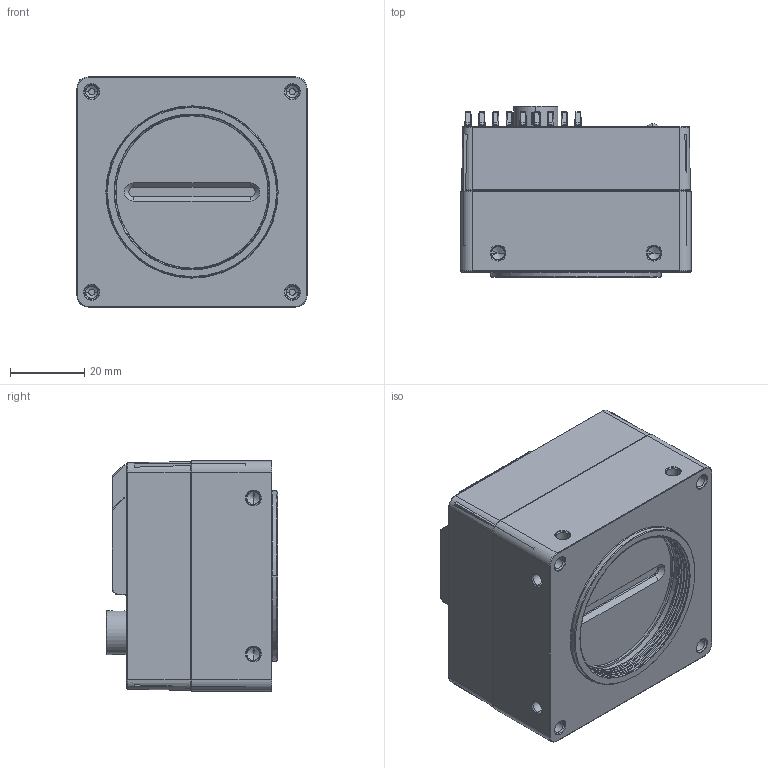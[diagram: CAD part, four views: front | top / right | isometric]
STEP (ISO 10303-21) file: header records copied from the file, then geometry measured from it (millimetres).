
FILE_DESCRIPTION((''),'2;1');
FILE_NAME('DH3-3077-6056_1','2025-09-04T10:24:38',('401792'),(''),'CREO PARAMETRIC BY PTC INC, 2020184','CREO PARAMETRIC BY PTC INC, 2020184','');
FILE_SCHEMA(('CONFIG_CONTROL_DESIGN','SHAPE_APPEARANCE_LAYERS_GROUPS'));
Products named in the file (1): DH3-3077-6056_1
Bounding box: 62 x 46.05 x 62 mm (x, y, z)
Volume: 114818.3 mm3; surface area: 48459 mm2
Topology: 1 solids, 39 shells, 2931 faces, 8024 edges, 5129 vertices
Faces by surface type: plane 1208, cylinder 788, cone 368, bspline 314, torus 237, sphere 14, extrusion 2
Entity records: 151926 total; most frequent: CARTESIAN_POINT 41367, ORIENTED_EDGE 15792, DIRECTION 14095, PRESENTATION_STYLE_ASSIGNMENT 9813, STYLED_ITEM 8008, CURVE_STYLE 7970, EDGE_CURVE 7970, VERTEX_POINT 5129
